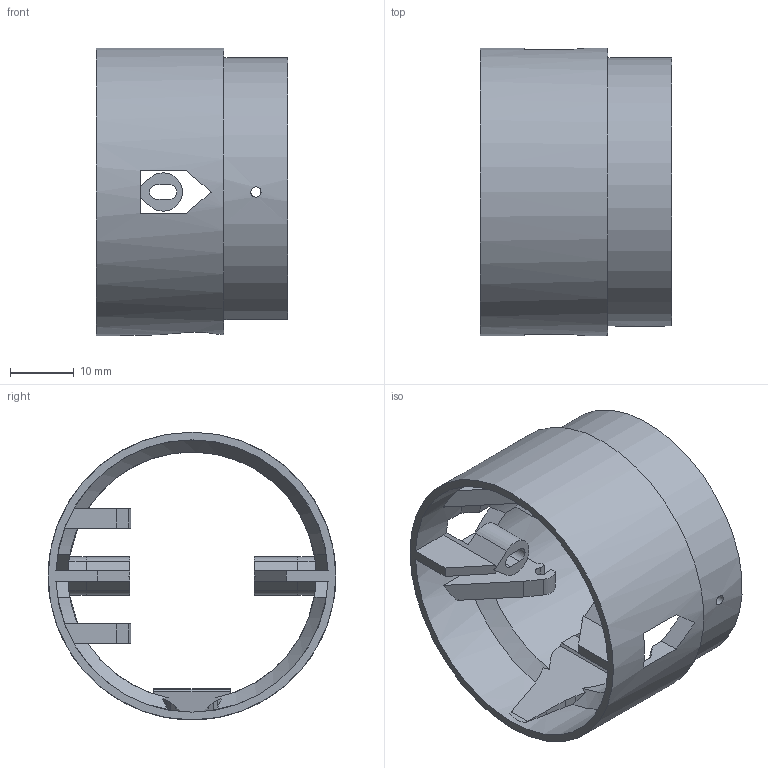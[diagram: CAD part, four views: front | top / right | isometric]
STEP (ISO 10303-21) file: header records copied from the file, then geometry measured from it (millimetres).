
FILE_DESCRIPTION(('Open CASCADE Model'),'2;1');
FILE_NAME('Open CASCADE Shape Model','2026-10-04T08:08:20',('Author'),( 'Open CASCADE'),'Open CASCADE STEP processor 7.9','Open CASCADE 7.9' ,'Unknown');
FILE_SCHEMA(('AUTOMOTIVE_DESIGN { 1 0 10303 214 1 1 1 1 }'));
Length unit declared in the file: millimetre
Products named in the file (1): Open CASCADE STEP translator 7.9 1
Bounding box: 30 x 45 x 45 mm (x, y, z)
Volume: 7958.2 mm3; surface area: 9676.9 mm2
Topology: 1 solids, 1 shells, 168 faces, 494 edges, 325 vertices
Faces by surface type: plane 112, cylinder 29, bspline 22, cone 5
Full cylindrical faces by diameter (mm): 1.6 x2, 45 x1
Entity records: 13452 total; most frequent: CARTESIAN_POINT 4438, DIRECTION 1426, ORIENTED_EDGE 988, PCURVE 988, DEFINITIONAL_REPRESENTATION 988, LINE 780, VECTOR 780, EDGE_CURVE 494
